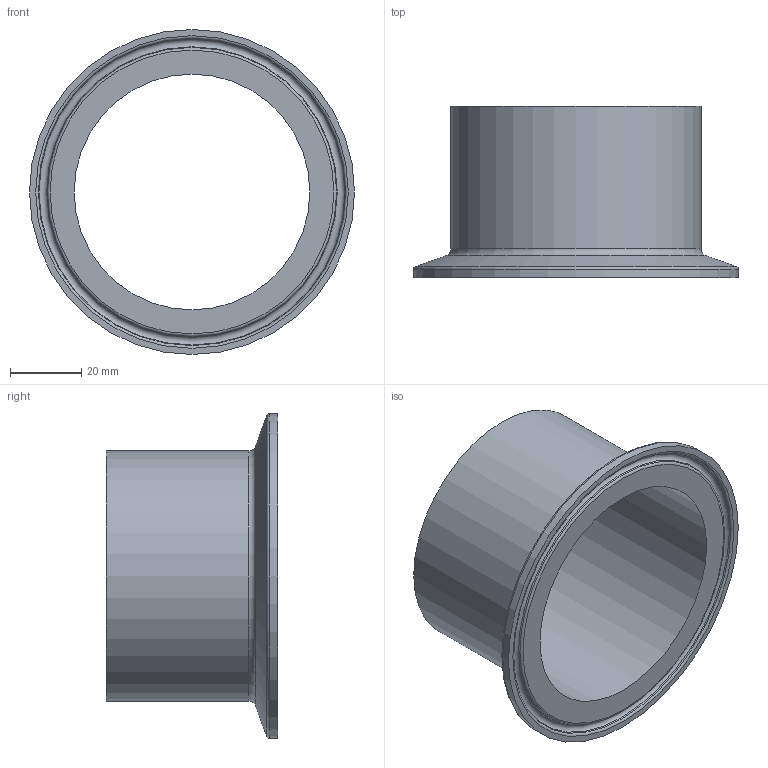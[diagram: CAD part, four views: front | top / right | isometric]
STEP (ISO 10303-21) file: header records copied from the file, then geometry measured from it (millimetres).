
FILE_DESCRIPTION(('Ferrule_70x2_L48_FL91_V02'),'2;1');
FILE_NAME('Ferrule_70x2_L48_FL91_V02.stp','2013-11-03T12:32:18',('DOCKWEILER AG'),('DOCKWEILER AG'),'Autodesk Inventor 2012','Autodesk Inventor 2012','');
FILE_SCHEMA(('CONFIG_CONTROL_DESIGN'));
Length unit declared in the file: millimetre
Products named in the file (1): N0003_003_001
Bounding box: 91 x 48 x 91 mm (x, y, z)
Volume: 32073.3 mm3; surface area: 26466.9 mm2
Topology: 1 solids, 1 shells, 14 faces, 25 edges, 14 vertices
Faces by surface type: torus 5, plane 3, cylinder 3, cone 3
Full cylindrical faces by diameter (mm): 66 x1, 70 x1, 91 x1
Entity records: 314 total; most frequent: DIRECTION 58, CARTESIAN_POINT 43, AXIS2_PLACEMENT_3D 29, ORIENTED_EDGE 28, EDGE_LOOP 28, VERTEX_POINT 14, CIRCLE 14, EDGE_CURVE 14
